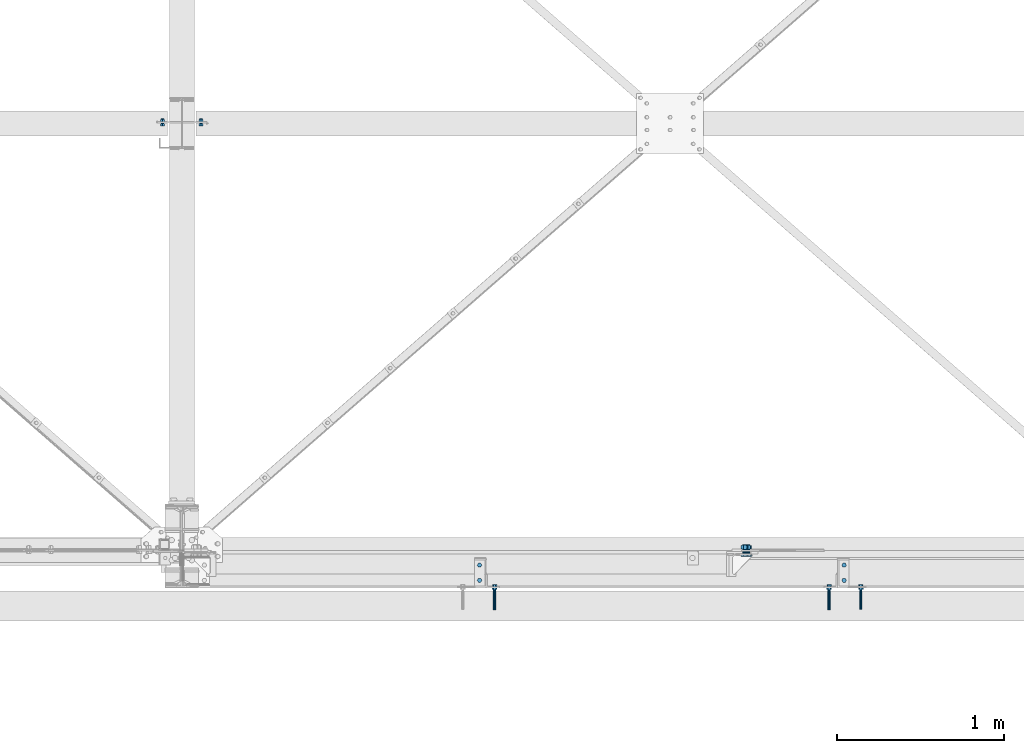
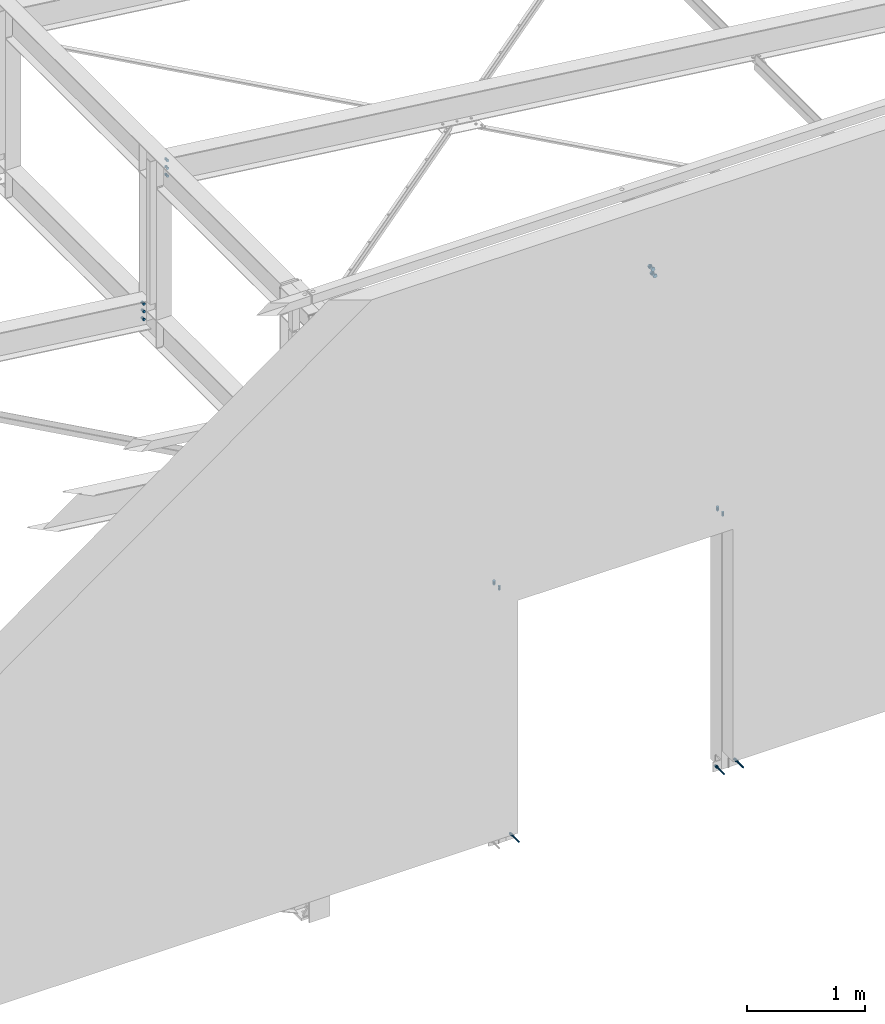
# One storey, part 126 of 3134: 8 mechanical fasteners, 6 elements without a shape of their own.
"""IFC2X3 building model written with IfcOpenShell, lengths in millimetres."""

import ifcopenshell
import ifcopenshell.guid

model = None  # the IFC model being written
_history = None  # IfcOwnerHistory: only IFC2X3 demands one
_inside = {}  # id of a spatial element -> (the spatial element, [elements in it])
_under = {}  # id of a project, library or spatial element -> (it, [spatial elements below it])
_declared = {}  # id of a project -> (the project, [libraries it declares])
_typed = {}  # id of a type object -> (the type object, [elements of that type])
_made_of = {}  # id of a material, layer set ... -> (it, [elements and type objects made of it])


def new_model(schema):
    """Start an empty IFC model of exactly this schema.

    Asked for "IFC4X3", IfcOpenShell would pick the latest addendum, in which some entities
    have other attributes; the version numbers below select the first issue.
    IFC2X3 requires an IfcOwnerHistory on every rooted entity: one is made here for all.
    """
    global model, _history
    if schema == "IFC4X3":
        model = ifcopenshell.file(schema_version=(4, 3, 0, 0))
    else:
        model = ifcopenshell.file(schema=schema)
    _inside.clear()
    _under.clear()
    _declared.clear()
    _typed.clear()
    _made_of.clear()
    _history = None
    if model.schema == "IFC2X3":
        org = make("IfcOrganization", Name="unknown")
        user = make(
            "IfcPersonAndOrganization",
            ThePerson=make("IfcPerson", FamilyName="unknown"),
            TheOrganization=org,
        )
        app = make(
            "IfcApplication",
            ApplicationDeveloper=org,
            Version="unknown",
            ApplicationFullName="unknown",
            ApplicationIdentifier="unknown",
        )
        _history = make(
            "IfcOwnerHistory",
            OwningUser=user,
            OwningApplication=app,
            ChangeAction="ADDED",
            CreationDate=0,
        )
    return model


def make(cls, **values):
    """One entity of the class cls with the attributes given. An attribute that is None is left unset."""
    return model.create_entity(
        cls, **{name: value for name, value in values.items() if value is not None}
    )


def rooted(cls, **values):
    """An entity with a GlobalId (a new one), such as an element, a storey or a relation."""
    return make(cls, GlobalId=ifcopenshell.guid.new(), OwnerHistory=_history, **values)


def si_unit(unit_type, name, prefix=None):
    """IfcSIUnit, for example si_unit("LENGTHUNIT", "METRE", prefix="MILLI")."""
    return make("IfcSIUnit", UnitType=unit_type, Prefix=prefix, Name=name)


def assignment(units):
    """IfcUnitAssignment: the units of a project."""
    return None if units is None else make("IfcUnitAssignment", Units=units)


def point(xyz):
    """IfcCartesianPoint."""
    return None if xyz is None else make("IfcCartesianPoint", Coordinates=xyz)


def direction(xyz):
    """IfcDirection."""
    return None if xyz is None else make("IfcDirection", DirectionRatios=xyz)


def frame(location, z_axis=None, x_axis=None):
    """IfcAxis2Placement3D, a coordinate frame: its origin and axes. An axis left out is left unset."""
    return make(
        "IfcAxis2Placement3D",
        Location=point(location),
        Axis=direction(z_axis),
        RefDirection=direction(x_axis),
    )


def origin_with_axes():
    """The frame at (0, 0, 0) with the z axis (0, 0, 1) and the x axis (1, 0, 0) written out."""
    return frame((0.0, 0.0, 0.0), z_axis=(0.0, 0.0, 1.0), x_axis=(1.0, 0.0, 0.0))


def place(relative_to, where):
    """IfcLocalPlacement: puts the frame where relative to a parent placement (None: the world)."""
    return make(
        "IfcLocalPlacement", PlacementRelTo=relative_to, RelativePlacement=where
    )


def context(
    kind, dimensions, precision=None, world=None, true_north=None, identifier=None
):
    """IfcGeometricRepresentationContext, for example the 3D "Model" context."""
    return make(
        "IfcGeometricRepresentationContext",
        ContextIdentifier=identifier,
        ContextType=kind,
        CoordinateSpaceDimension=dimensions,
        Precision=precision,
        WorldCoordinateSystem=world,
        TrueNorth=true_north,
    )


def subcontext(parent, identifier, kind, view, scale=None):
    """IfcGeometricRepresentationSubContext, for example "Body" below "Model"."""
    return make(
        "IfcGeometricRepresentationSubContext",
        ContextIdentifier=identifier,
        ContextType=kind,
        ParentContext=parent,
        TargetScale=scale,
        TargetView=view,
    )


def project(units=None, contexts=None):
    """IfcProject with its units and contexts."""
    return rooted(
        "IfcProject",
        Name="project",
        RepresentationContexts=contexts,
        UnitsInContext=assignment(units),
    )


def spatial(cls, under=None, at=None, **own):
    """A site, building, storey or space (cls), placed at a placement, below another one or the project."""
    s = rooted(cls, ObjectPlacement=at, **own)
    if under is not None:
        _under.setdefault(under.id(), (under, []))[1].append(s)
    return s


def faces_of(points, faces, orient=None, outer=None):
    """IfcFace entities. A face is a list of loops; a loop is a list of indices into points, from 0.

    orient and outer hold one flag for each loop. By default every Orientation is true, the
    first loop of a face is its IfcFaceOuterBound and the others are IfcFaceBound.
    """
    made = []
    for i, loops in enumerate(faces):
        bounds = []
        for j, loop in enumerate(loops):
            is_outer = j == 0 if outer is None else outer[i][j]
            bounds.append(
                make(
                    "IfcFaceOuterBound" if is_outer else "IfcFaceBound",
                    Bound=make("IfcPolyLoop", Polygon=[points[k] for k in loop]),
                    Orientation=True if orient is None else orient[i][j],
                )
            )
        made.append(make("IfcFace", Bounds=bounds))
    return made


def faceted_brep(points, faces, orient=None, outer=None, voids=None):
    """IfcFacetedBrep: a solid bounded by flat faces; with voids (closed shells), ...WithVoids."""
    shared = [point(p) for p in points]
    hull = make("IfcClosedShell", CfsFaces=faces_of(shared, faces, orient, outer))
    if voids is None:
        return make("IfcFacetedBrep", Outer=hull)
    return make(
        "IfcFacetedBrepWithVoids",
        Outer=hull,
        Voids=[
            make(cls, CfsFaces=faces_of(shared, fs, o, b)) for cls, fs, o, b in voids
        ],
    )


def shape(context_of_items, identifier, shape_type, items):
    """IfcShapeRepresentation: the items that make up one representation, for example the "Body"."""
    return make(
        "IfcShapeRepresentation",
        ContextOfItems=context_of_items,
        RepresentationIdentifier=identifier,
        RepresentationType=shape_type,
        Items=items,
    )


def source(mapping_origin, context_of_items, identifier, shape_type, items):
    """IfcRepresentationMap: a shape defined once, which mapped items show again and again."""
    return make(
        "IfcRepresentationMap",
        MappingOrigin=mapping_origin,
        MappedRepresentation=shape(context_of_items, identifier, shape_type, items),
    )


def transform(
    local_origin,
    x_axis=None,
    y_axis=None,
    z_axis=None,
    scale=None,
    scale2=None,
    scale3=None,
    uniform=True,
):
    """IfcCartesianTransformationOperator3D, or its non-uniform kind. x_axis, y_axis, z_axis: its Axis1, 2, 3."""
    if uniform:
        return make(
            "IfcCartesianTransformationOperator3D",
            Axis1=direction(x_axis),
            Axis2=direction(y_axis),
            LocalOrigin=point(local_origin),
            Scale=scale,
            Axis3=direction(z_axis),
        )
    return make(
        "IfcCartesianTransformationOperator3DnonUniform",
        Axis1=direction(x_axis),
        Axis2=direction(y_axis),
        LocalOrigin=point(local_origin),
        Scale=scale,
        Axis3=direction(z_axis),
        Scale2=scale2,
        Scale3=scale3,
    )


def mapped(mapping_source, mapping_target):
    """IfcMappedItem: shows the shape of a source again, moved by a transform."""
    return make(
        "IfcMappedItem", MappingSource=mapping_source, MappingTarget=mapping_target
    )


def material(Name=None, Category=None):
    """IfcMaterial."""
    return make("IfcMaterial", Name=Name, Category=Category)


def made_of(thing, what):
    """Note that an element or type object is made of a material, layer set ...; save() writes the relation."""
    if what is not None:
        _made_of.setdefault(what.id(), (what, []))[1].append(thing)
    return thing


def type_object(cls, material=None, **own):
    """A type object (cls), such as IfcWallType, which elements share."""
    return made_of(rooted(cls, **own), material)


def element(
    cls,
    number,
    at=None,
    inside=None,
    cuts=None,
    type_object=None,
    material=None,
    context=None,
    identifier="Body",
    shape_type=None,
    held_by="IfcProductDefinitionShape",
    body=None,
    shapes=None,
    **own,
):
    """One element of the class cls, such as IfcWall. Its Tag is "e" and its number.

    at: its placement. inside: the storey or other place that contains it. cuts: it is an
    opening in that element (IfcRelVoidsElement). A single representation is given by context,
    identifier, shape_type and body (its items); several are given by shapes. held_by: the class
    of the entity that holds the representations. save() writes the other relations.
    """
    e = rooted(cls, Tag="e%d" % number, ObjectPlacement=at, **own)
    if body is not None:
        shapes = [shape(context, identifier, shape_type, body)]
    if shapes is not None:
        e.Representation = make(held_by, Representations=shapes)
    if inside is not None:
        _inside.setdefault(inside.id(), (inside, []))[1].append(e)
    if cuts is not None:
        rooted(
            "IfcRelVoidsElement", RelatingBuildingElement=cuts, RelatedOpeningElement=e
        )
    if type_object is not None:
        _typed.setdefault(type_object.id(), (type_object, []))[1].append(e)
    return made_of(e, material)


def aggregate(whole, parts):
    """IfcRelAggregates: a whole, such as a stair, and the parts it consists of."""
    return rooted("IfcRelAggregates", RelatingObject=whole, RelatedObjects=parts)


def save(model, path):
    """Write the relations noted so far, then the file.

    IfcRelAggregates (storeys below a building ...), IfcRelContainedInSpatialStructure (elements
    in a storey), IfcRelDefinesByType, IfcRelAssociatesMaterial and IfcRelDeclares: one each for
    every whole, place, type object, material and project.
    """
    for whole, parts in _under.values():
        aggregate(whole, parts)
    for where, things in _inside.values():
        rooted(
            "IfcRelContainedInSpatialStructure",
            RelatedElements=things,
            RelatingStructure=where,
        )
    for kind, things in _typed.values():
        rooted("IfcRelDefinesByType", RelatedObjects=things, RelatingType=kind)
    for what, things in _made_of.values():
        rooted("IfcRelAssociatesMaterial", RelatedObjects=things, RelatingMaterial=what)
    for by, libraries in _declared.values():
        rooted("IfcRelDeclares", RelatingContext=by, RelatedDefinitions=libraries)
    model.write(path)


model = new_model("IFC2X3")

# Units and contexts
model_context = context("Model", 3, precision=1e-05, world=origin_with_axes())
body_context = subcontext(model_context, "Body", "Model", "MODEL_VIEW")
ifc_project = project(units=[si_unit("LENGTHUNIT", "METRE", prefix="MILLI"), si_unit("AREAUNIT", "SQUARE_METRE"), si_unit("VOLUMEUNIT", "CUBIC_METRE"), si_unit("MASSUNIT", "GRAM", prefix="KILO"), si_unit("TIMEUNIT", "SECOND"), si_unit("PLANEANGLEUNIT", "RADIAN"), si_unit("SOLIDANGLEUNIT", "STERADIAN"), si_unit("THERMODYNAMICTEMPERATUREUNIT", "DEGREE_CELSIUS"), si_unit("LUMINOUSINTENSITYUNIT", "LUMEN")], contexts=[model_context])

# Site, building, storey
site_placement = place(None, origin_with_axes())
site = spatial("IfcSite", under=ifc_project, at=site_placement, CompositionType="ELEMENT")
building_placement = place(site_placement, origin_with_axes())
building = spatial("IfcBuilding", under=site, at=building_placement, Name="Undefined", CompositionType="ELEMENT")
storey_placement = place(building_placement, origin_with_axes())
storey = spatial("IfcBuildingStorey", under=building, at=storey_placement, Name="Undefined", CompositionType="ELEMENT", Elevation=0.0)

# Assembly, mechanical fasteners
assembly_1_placement = place(storey_placement, origin_with_axes())
assembly_1 = element("IfcElementAssembly", 1, at=assembly_1_placement, inside=storey, Name="UPN180", AssemblyPlace="NOTDEFINED", PredefinedType="RIGID_FRAME")
ifc_material_1 = material(Name="HILTI-HSA")
mechanical_fastener_type = type_object("IfcMechanicalFastenerType", Name="Bolt assembly")
shared_shape_1 = source(origin_with_axes(), body_context, "Body", "Brep", [
    faceted_brep([(13.856406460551, -20.56, 0.0), (6.92820323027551, -20.56, 12.0), (-6.92820323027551, -20.56, 12.0), (-13.856406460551, -20.56, 1.69692038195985e-15), (-6.92820323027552, -20.56, -12.0), (6.9282032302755, -20.56, -12.0), (6.9282032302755, -10.0, -12.0), (-6.92820323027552, -10.0, -12.0), (-13.856406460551, -10.0, 1.69692038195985e-15), (-6.92820323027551, -10.0, 12.0), (6.92820323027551, -10.0, 12.0), (13.856406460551, -10.0, 0.0), (8.0, -10.0, 0.0), (6.92820323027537, -10.0, 4.00000000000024), (3.99999999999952, -10.0, 6.92820323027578), (-8.29068785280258e-13, -10.0, 8.0), (-4.00000000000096, -10.0, 6.92820323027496), (-6.9282032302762, -10.0, 3.99999999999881), (-8.0, -10.0, -1.65813757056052e-12), (-6.92820323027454, -10.0, -4.00000000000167), (-3.99999999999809, -10.0, -6.92820323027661), (2.47832457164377e-12, -10.0, -8.0), (4.00000000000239, -10.0, -6.92820323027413), (6.92820323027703, -10.0, -3.99999999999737), (6.92820323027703, 130.0, -3.99999999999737), (4.00000000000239, 130.0, -6.92820323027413), (2.47832457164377e-12, 130.0, -8.0), (-3.99999999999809, 130.0, -6.92820323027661), (-6.92820323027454, 130.0, -4.00000000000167), (-8.0, 130.0, -1.65813757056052e-12), (-6.9282032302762, 130.0, 3.99999999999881), (-4.00000000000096, 130.0, 6.92820323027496), (-8.29068785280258e-13, 130.0, 8.0), (3.99999999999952, 130.0, 6.92820323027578), (6.92820323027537, 130.0, 4.00000000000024), (8.0, 130.0, 0.0), (15.3344231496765, 7.105427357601e-15, 0.0), (7.66721157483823, 7.105427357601e-15, 13.28), (-7.66721157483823, 7.105427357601e-15, 13.28), (-15.3344231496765, 7.105427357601e-15, 1.87792522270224e-15), (-7.66721157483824, 7.105427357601e-15, -13.28), (7.66721157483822, 7.105427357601e-15, -13.28), (7.66721157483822, 10.56, -13.28), (-7.66721157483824, 10.56, -13.28), (-15.3344231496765, 10.56, 1.87792522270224e-15), (-7.66721157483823, 10.56, 13.28), (7.66721157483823, 10.56, 13.28), (15.3344231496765, 10.56, 0.0)], [[[0, 1, 2, 3, 4, 5]], [[6, 7, 8, 9, 10, 11]], [[0, 11, 10, 1]], [[1, 10, 9, 2]], [[2, 9, 8, 3]], [[3, 8, 7, 4]], [[4, 7, 6, 5]], [[5, 6, 11, 0]], [[12, 13, 14, 15, 16, 17, 18, 19, 20, 21, 22, 23]], [[24, 25, 26, 27, 28, 29, 30, 31, 32, 33, 34, 35]], [[12, 35, 34, 13]], [[13, 34, 33, 14]], [[14, 33, 32, 15]], [[15, 32, 31, 16]], [[16, 31, 30, 17]], [[17, 30, 29, 18]], [[18, 29, 28, 19]], [[19, 28, 27, 20]], [[20, 27, 26, 21]], [[21, 26, 25, 22]], [[22, 25, 24, 23]], [[23, 24, 35, 12]], [[36, 37, 38, 39, 40, 41]], [[42, 43, 44, 45, 46, 47]], [[36, 47, 46, 37]], [[37, 46, 45, 38]], [[38, 45, 44, 39]], [[39, 44, 43, 40]], [[40, 43, 42, 41]], [[41, 42, 47, 36]]]),
    faceted_brep([(9.0, -10.0, 0.0), (7.79422863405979, -10.0, 4.50000000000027), (4.49999999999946, -10.0, 7.79422863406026), (-9.3270238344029e-13, -10.0, 9.0), (-4.50000000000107, -10.0, 7.79422863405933), (-7.79422863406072, -10.0, 4.49999999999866), (-9.0, -10.0, -1.86540476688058e-12), (-7.79422863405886, -10.0, -4.50000000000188), (-4.49999999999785, -10.0, -7.79422863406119), (2.78811514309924e-12, -10.0, -9.0), (4.50000000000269, -10.0, -7.7942286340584), (7.79422863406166, -10.0, -4.49999999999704), (7.79422863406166, 0.100000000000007, -4.49999999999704), (4.50000000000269, 0.100000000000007, -7.7942286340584), (2.78811514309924e-12, 0.100000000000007, -9.0), (-4.49999999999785, 0.100000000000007, -7.79422863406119), (-7.79422863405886, 0.100000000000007, -4.50000000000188), (-9.0, 0.100000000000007, -1.86540476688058e-12), (-7.79422863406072, 0.100000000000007, 4.49999999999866), (-4.50000000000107, 0.100000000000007, 7.79422863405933), (-9.3270238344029e-13, 0.100000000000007, 9.0), (4.49999999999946, 0.100000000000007, 7.79422863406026), (7.79422863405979, 0.100000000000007, 4.50000000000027), (9.0, 0.100000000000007, 0.0)], [[[0, 1, 2, 3, 4, 5, 6, 7, 8, 9, 10, 11]], [[12, 13, 14, 15, 16, 17, 18, 19, 20, 21, 22, 23]], [[0, 23, 22, 1]], [[1, 22, 21, 2]], [[2, 21, 20, 3]], [[3, 20, 19, 4]], [[4, 19, 18, 5]], [[5, 18, 17, 6]], [[6, 17, 16, 7]], [[7, 16, 15, 8]], [[8, 15, 14, 9]], [[9, 14, 13, 10]], [[10, 13, 12, 11]], [[11, 12, 23, 0]]]),
])
mechanical_fastener_1_placement = place(assembly_1_placement, frame((59935.0, -225.0, -150.0), z_axis=(0.0, 0.0, 1.0), x_axis=(-1.0, 0.0, 0.0)))
mechanical_fastener_1 = element("IfcMechanicalFastener", 2, at=mechanical_fastener_1_placement, type_object=mechanical_fastener_type, material=ifc_material_1, Name="Bolt assembly", NominalDiameter=16.0, NominalLength=140.0, context=body_context, shape_type="MappedRepresentation", body=[
    mapped(shared_shape_1, transform((0.0, 0.0, 0.0))),
])
shared_shape_2 = source(origin_with_axes(), body_context, "Body", "Brep", [
    faceted_brep([(13.856406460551, -18.56, 0.0), (6.92820323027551, -18.56, 12.0), (-6.92820323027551, -18.56, 12.0), (-13.856406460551, -18.56, 1.69692038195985e-15), (-6.92820323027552, -18.56, -12.0), (6.9282032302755, -18.56, -12.0), (6.9282032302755, -7.99999766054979, -12.0), (-6.92820323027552, -7.99999766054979, -12.0), (-13.856406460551, -7.99999766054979, 1.69692038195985e-15), (-6.92820323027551, -7.99999766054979, 12.0), (6.92820323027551, -7.99999766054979, 12.0), (13.856406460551, -7.99999766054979, 0.0), (8.0, -8.0, 0.0), (6.92820323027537, -8.0, 4.00000000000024), (3.99999999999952, -8.0, 6.92820323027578), (-8.29068785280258e-13, -8.0, 8.0), (-4.00000000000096, -8.0, 6.92820323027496), (-6.9282032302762, -8.0, 3.99999999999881), (-8.0, -8.0, -1.65813757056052e-12), (-6.92820323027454, -8.0, -4.00000000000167), (-3.99999999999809, -8.0, -6.92820323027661), (2.47832457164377e-12, -8.0, -8.0), (4.00000000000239, -8.0, -6.92820323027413), (6.92820323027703, -8.0, -3.99999999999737), (6.92820323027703, 132.0, -3.99999999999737), (4.00000000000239, 132.0, -6.92820323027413), (2.47832457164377e-12, 132.0, -8.0), (-3.99999999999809, 132.0, -6.92820323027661), (-6.92820323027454, 132.0, -4.00000000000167), (-8.0, 132.0, -1.65813757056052e-12), (-6.9282032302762, 132.0, 3.99999999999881), (-4.00000000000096, 132.0, 6.92820323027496), (-8.29068785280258e-13, 132.0, 8.0), (3.99999999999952, 132.0, 6.92820323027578), (6.92820323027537, 132.0, 4.00000000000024), (8.0, 132.0, 0.0), (15.3344231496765, 7.105427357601e-15, 0.0), (7.66721157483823, 7.105427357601e-15, 13.28), (-7.66721157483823, 7.105427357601e-15, 13.28), (-15.3344231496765, 7.105427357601e-15, 1.87792522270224e-15), (-7.66721157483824, 7.105427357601e-15, -13.28), (7.66721157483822, 7.105427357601e-15, -13.28), (7.66721157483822, 10.56, -13.28), (-7.66721157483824, 10.56, -13.28), (-15.3344231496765, 10.56, 1.87792522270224e-15), (-7.66721157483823, 10.56, 13.28), (7.66721157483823, 10.56, 13.28), (15.3344231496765, 10.56, 0.0)], [[[0, 1, 2, 3, 4, 5]], [[6, 7, 8, 9, 10, 11]], [[0, 11, 10, 1]], [[1, 10, 9, 2]], [[2, 9, 8, 3]], [[3, 8, 7, 4]], [[4, 7, 6, 5]], [[5, 6, 11, 0]], [[12, 13, 14, 15, 16, 17, 18, 19, 20, 21, 22, 23]], [[24, 25, 26, 27, 28, 29, 30, 31, 32, 33, 34, 35]], [[12, 35, 34, 13]], [[13, 34, 33, 14]], [[14, 33, 32, 15]], [[15, 32, 31, 16]], [[16, 31, 30, 17]], [[17, 30, 29, 18]], [[18, 29, 28, 19]], [[19, 28, 27, 20]], [[20, 27, 26, 21]], [[21, 26, 25, 22]], [[22, 25, 24, 23]], [[23, 24, 35, 12]], [[36, 37, 38, 39, 40, 41]], [[42, 43, 44, 45, 46, 47]], [[36, 47, 46, 37]], [[37, 46, 45, 38]], [[38, 45, 44, 39]], [[39, 44, 43, 40]], [[40, 43, 42, 41]], [[41, 42, 47, 36]]]),
    faceted_brep([(9.0, -8.0, 0.0), (7.79422863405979, -8.0, 4.50000000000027), (4.49999999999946, -8.0, 7.79422863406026), (-9.3270238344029e-13, -8.0, 9.0), (-4.50000000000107, -8.0, 7.79422863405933), (-7.79422863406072, -8.0, 4.49999999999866), (-9.0, -8.0, -1.86540476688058e-12), (-7.79422863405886, -8.0, -4.50000000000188), (-4.49999999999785, -8.0, -7.79422863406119), (2.78811514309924e-12, -8.0, -9.0), (4.50000000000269, -8.0, -7.7942286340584), (7.79422863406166, -8.0, -4.49999999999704), (7.79422863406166, 0.100000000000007, -4.49999999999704), (4.50000000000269, 0.100000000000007, -7.7942286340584), (2.78811514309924e-12, 0.100000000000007, -9.0), (-4.49999999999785, 0.100000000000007, -7.79422863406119), (-7.79422863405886, 0.100000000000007, -4.50000000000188), (-9.0, 0.100000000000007, -1.86540476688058e-12), (-7.79422863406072, 0.100000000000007, 4.49999999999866), (-4.50000000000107, 0.100000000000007, 7.79422863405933), (-9.3270238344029e-13, 0.100000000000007, 9.0), (4.49999999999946, 0.100000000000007, 7.79422863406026), (7.79422863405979, 0.100000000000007, 4.50000000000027), (9.0, 0.100000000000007, 0.0)], [[[0, 1, 2, 3, 4, 5, 6, 7, 8, 9, 10, 11]], [[12, 13, 14, 15, 16, 17, 18, 19, 20, 21, 22, 23]], [[0, 23, 22, 1]], [[1, 22, 21, 2]], [[2, 21, 20, 3]], [[3, 20, 19, 4]], [[4, 19, 18, 5]], [[5, 18, 17, 6]], [[6, 17, 16, 7]], [[7, 16, 15, 8]], [[8, 15, 14, 9]], [[9, 14, 13, 10]], [[10, 13, 12, 11]], [[11, 12, 23, 0]]]),
])
mechanical_fastener_2_placement = place(assembly_1_placement, frame((59745.0, -225.0, -150.0), z_axis=(0.0, 0.0, -1.0), x_axis=(1.0, 0.0, 0.0)))
mechanical_fastener_2 = element("IfcMechanicalFastener", 3, at=mechanical_fastener_2_placement, type_object=mechanical_fastener_type, material=ifc_material_1, Name="Bolt assembly", NominalDiameter=16.0, NominalLength=140.0, context=body_context, shape_type="MappedRepresentation", body=[
    mapped(shared_shape_2, transform((0.0, 0.0, 0.0))),
])
aggregate(assembly_1, [mechanical_fastener_2, mechanical_fastener_1])

# Assembly, mechanical fastener
assembly_2_placement = place(storey_placement, origin_with_axes())
assembly_2 = element("IfcElementAssembly", 4, at=assembly_2_placement, inside=storey, Name="UPN180", AssemblyPlace="NOTDEFINED", PredefinedType="RIGID_FRAME")
mechanical_fastener_3_placement = place(assembly_2_placement, frame((57745.0, -225.0, -150.0), z_axis=(0.0, 0.0, 1.0), x_axis=(-1.0, 0.0, 0.0)))
mechanical_fastener_3 = element("IfcMechanicalFastener", 5, at=mechanical_fastener_3_placement, type_object=mechanical_fastener_type, material=ifc_material_1, Name="Bolt assembly", NominalDiameter=16.0, NominalLength=140.0, context=body_context, shape_type="MappedRepresentation", body=[
    mapped(shared_shape_2, transform((0.0, 0.0, 0.0))),
])
aggregate(assembly_2, [mechanical_fastener_3])

assembly_3_placement = place(storey_placement, origin_with_axes())
assembly_3 = element("IfcElementAssembly", 6, at=assembly_3_placement, inside=storey, Name="300", AssemblyPlace="NOTDEFINED", PredefinedType="RIGID_FRAME")
ifc_material_2 = material(Name="8.8")
shared_shape_3 = source(origin_with_axes(), body_context, "Body", "Brep", [
    faceted_brep([(13.856406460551, -13.0499999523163, 0.0), (6.92820323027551, -13.0499999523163, 12.0), (-6.92820323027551, -13.0499999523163, 12.0), (-13.856406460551, -13.0499999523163, 1.69692038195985e-15), (-6.92820323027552, -13.0499999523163, -12.0), (6.9282032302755, -13.0499999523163, -12.0), (6.9282032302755, -3.04999995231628, -12.0), (-6.92820323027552, -3.04999995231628, -12.0), (-13.856406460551, -3.04999995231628, 1.69692038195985e-15), (-6.92820323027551, -3.04999995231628, 12.0), (6.92820323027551, -3.04999995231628, 12.0), (13.856406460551, -3.04999995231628, 0.0), (8.0, -3.04999995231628, 0.0), (6.92820323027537, -3.04999995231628, 4.00000000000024), (3.99999999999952, -3.04999995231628, 6.92820323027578), (-8.29068785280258e-13, -3.04999995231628, 8.0), (-4.00000000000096, -3.04999995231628, 6.92820323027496), (-6.9282032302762, -3.04999995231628, 3.99999999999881), (-8.0, -3.04999995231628, -1.65813757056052e-12), (-6.92820323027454, -3.04999995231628, -4.00000000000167), (-3.99999999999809, -3.04999995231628, -6.92820323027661), (2.47832457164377e-12, -3.04999995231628, -8.0), (4.00000000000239, -3.04999995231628, -6.92820323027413), (6.92820323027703, -3.04999995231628, -3.99999999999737), (6.92820323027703, 31.9500000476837, -3.99999999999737), (4.00000000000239, 31.9500000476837, -6.92820323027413), (2.47832457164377e-12, 31.9500000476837, -8.0), (-3.99999999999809, 31.9500000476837, -6.92820323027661), (-6.92820323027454, 31.9500000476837, -4.00000000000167), (-8.0, 31.9500000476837, -1.65813757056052e-12), (-6.9282032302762, 31.9500000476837, 3.99999999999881), (-4.00000000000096, 31.9500000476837, 6.92820323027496), (-8.29068785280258e-13, 31.9500000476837, 8.0), (3.99999999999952, 31.9500000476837, 6.92820323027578), (6.92820323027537, 31.9500000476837, 4.00000000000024), (8.0, 31.9500000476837, 0.0), (13.856406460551, 13.0500000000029, 0.0), (6.92820323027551, 13.0500000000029, 12.0), (-6.92820323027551, 13.0500000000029, 12.0), (-13.856406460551, 13.0500000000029, 1.69692038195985e-15), (-6.92820323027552, 13.0500000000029, -12.0), (6.9282032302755, 13.0500000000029, -12.0), (6.9282032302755, 26.0500000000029, -12.0), (-6.92820323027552, 26.0500000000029, -12.0), (-13.856406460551, 26.0500000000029, 1.69692038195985e-15), (-6.92820323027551, 26.0500000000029, 12.0), (6.92820323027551, 26.0500000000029, 12.0), (13.856406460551, 26.0500000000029, 0.0)], [[[0, 1, 2, 3, 4, 5]], [[6, 7, 8, 9, 10, 11]], [[0, 11, 10, 1]], [[1, 10, 9, 2]], [[2, 9, 8, 3]], [[3, 8, 7, 4]], [[4, 7, 6, 5]], [[5, 6, 11, 0]], [[12, 13, 14, 15, 16, 17, 18, 19, 20, 21, 22, 23]], [[24, 25, 26, 27, 28, 29, 30, 31, 32, 33, 34, 35]], [[12, 35, 34, 13]], [[13, 34, 33, 14]], [[14, 33, 32, 15]], [[15, 32, 31, 16]], [[16, 31, 30, 17]], [[17, 30, 29, 18]], [[18, 29, 28, 19]], [[19, 28, 27, 20]], [[20, 27, 26, 21]], [[21, 26, 25, 22]], [[22, 25, 24, 23]], [[23, 24, 35, 12]], [[36, 37, 38, 39, 40, 41]], [[42, 43, 44, 45, 46, 47]], [[36, 47, 46, 37]], [[37, 46, 45, 38]], [[38, 45, 44, 39]], [[39, 44, 43, 40]], [[40, 43, 42, 41]], [[41, 42, 47, 36]]]),
    faceted_brep([(9.0, 2.95000000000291, 0.0), (7.79422863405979, 2.95000000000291, 4.50000000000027), (4.49999999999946, 2.95000000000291, 7.79422863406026), (-9.3270238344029e-13, 2.95000000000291, 9.0), (-4.50000000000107, 2.95000000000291, 7.79422863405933), (-7.79422863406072, 2.95000000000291, 4.49999999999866), (-9.0, 2.95000000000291, -1.86540476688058e-12), (-7.79422863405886, 2.95000000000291, -4.50000000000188), (-4.49999999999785, 2.95000000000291, -7.79422863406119), (2.78811514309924e-12, 2.95000000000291, -9.0), (4.50000000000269, 2.95000000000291, -7.7942286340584), (7.79422863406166, 2.95000000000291, -4.49999999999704), (7.79422863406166, 13.0500000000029, -4.49999999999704), (4.50000000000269, 13.0500000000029, -7.7942286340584), (2.78811514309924e-12, 13.0500000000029, -9.0), (-4.49999999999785, 13.0500000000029, -7.79422863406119), (-7.79422863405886, 13.0500000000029, -4.50000000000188), (-9.0, 13.0500000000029, -1.86540476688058e-12), (-7.79422863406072, 13.0500000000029, 4.49999999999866), (-4.50000000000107, 13.0500000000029, 7.79422863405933), (-9.3270238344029e-13, 13.0500000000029, 9.0), (4.49999999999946, 13.0500000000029, 7.79422863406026), (7.79422863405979, 13.0500000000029, 4.50000000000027), (9.0, 13.0500000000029, 0.0), (9.0, -2.94999995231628, 0.0), (7.79422863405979, -2.94999995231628, 4.50000000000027), (4.49999999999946, -2.94999995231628, 7.79422863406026), (-9.3270238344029e-13, -2.94999995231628, 9.0), (-4.50000000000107, -2.94999995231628, 7.79422863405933), (-7.79422863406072, -2.94999995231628, 4.49999999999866), (-9.0, -2.94999995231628, -1.86540476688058e-12), (-7.79422863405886, -2.94999995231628, -4.50000000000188), (-4.49999999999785, -2.94999995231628, -7.79422863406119), (2.78811514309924e-12, -2.94999995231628, -9.0), (4.50000000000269, -2.94999995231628, -7.7942286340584), (7.79422863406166, -2.94999995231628, -4.49999999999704), (7.79422863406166, 3.14999995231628, -4.49999999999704), (4.50000000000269, 3.14999995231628, -7.7942286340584), (2.78811514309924e-12, 3.14999995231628, -9.0), (-4.49999999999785, 3.14999995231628, -7.79422863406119), (-7.79422863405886, 3.14999995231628, -4.50000000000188), (-9.0, 3.14999995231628, -1.86540476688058e-12), (-7.79422863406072, 3.14999995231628, 4.49999999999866), (-4.50000000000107, 3.14999995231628, 7.79422863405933), (-9.3270238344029e-13, 3.14999995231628, 9.0), (4.49999999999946, 3.14999995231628, 7.79422863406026), (7.79422863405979, 3.14999995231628, 4.50000000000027), (9.0, 3.14999995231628, 0.0)], [[[0, 1, 2, 3, 4, 5, 6, 7, 8, 9, 10, 11]], [[12, 13, 14, 15, 16, 17, 18, 19, 20, 21, 22, 23]], [[0, 23, 22, 1]], [[1, 22, 21, 2]], [[2, 21, 20, 3]], [[3, 20, 19, 4]], [[4, 19, 18, 5]], [[5, 18, 17, 6]], [[6, 17, 16, 7]], [[7, 16, 15, 8]], [[8, 15, 14, 9]], [[9, 14, 13, 10]], [[10, 13, 12, 11]], [[11, 12, 23, 0]], [[24, 25, 26, 27, 28, 29, 30, 31, 32, 33, 34, 35]], [[36, 37, 38, 39, 40, 41, 42, 43, 44, 45, 46, 47]], [[24, 47, 46, 25]], [[25, 46, 45, 26]], [[26, 45, 44, 27]], [[27, 44, 43, 28]], [[28, 43, 42, 29]], [[29, 42, 41, 30]], [[30, 41, 40, 31]], [[31, 40, 39, 32]], [[32, 39, 38, 33]], [[33, 38, 37, 34]], [[34, 37, 36, 35]], [[35, 36, 47, 24]]]),
])
mechanical_fastener_4_placement = place(assembly_3_placement, frame((55760.0, 2550.0, 4337.44269270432), z_axis=(1.0, 0.0, 0.0), x_axis=(0.0, 0.0, -1.0)))
mechanical_fastener_4 = element("IfcMechanicalFastener", 7, at=mechanical_fastener_4_placement, type_object=mechanical_fastener_type, material=ifc_material_2, Name="Bolt assembly", NominalDiameter=16.0, NominalLength=35.0, context=body_context, shape_type="MappedRepresentation", body=[
    mapped(shared_shape_3, transform((0.0, 0.0, 0.0))),
    mapped(shared_shape_3, transform((80.0, 0.0, 0.0))),
    mapped(shared_shape_3, transform((160.0, 0.0, 0.0))),
])
aggregate(assembly_3, [mechanical_fastener_4])

assembly_4_placement = place(storey_placement, origin_with_axes())
assembly_4 = element("IfcElementAssembly", 8, at=assembly_4_placement, inside=storey, Name="300", AssemblyPlace="NOTDEFINED", PredefinedType="RIGID_FRAME")
mechanical_fastener_5_placement = place(assembly_4_placement, frame((55990.0, 2550.0, 5735.35014950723), z_axis=(1.0, 0.0, 0.0), x_axis=(0.0, 0.0, -1.0)))
mechanical_fastener_5 = element("IfcMechanicalFastener", 9, at=mechanical_fastener_5_placement, type_object=mechanical_fastener_type, material=ifc_material_2, Name="Bolt assembly", NominalDiameter=16.0, NominalLength=35.0, context=body_context, shape_type="MappedRepresentation", body=[
    mapped(shared_shape_3, transform((0.0, 0.0, 0.0))),
    mapped(shared_shape_3, transform((80.0, 0.0, 0.0))),
    mapped(shared_shape_3, transform((160.0, 0.0, 0.0))),
])
aggregate(assembly_4, [mechanical_fastener_5])

# Assembly, mechanical fasteners
assembly_5_placement = place(storey_placement, origin_with_axes())
assembly_5 = element("IfcElementAssembly", 10, at=assembly_5_placement, inside=storey, Name="UPN180", AssemblyPlace="NOTDEFINED", PredefinedType="RIGID_FRAME")
shared_shape_4 = source(origin_with_axes(), body_context, "Body", "Brep", [
    faceted_brep([(13.856406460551, -18.0, 0.0), (6.92820323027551, -18.0, 12.0), (-6.92820323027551, -18.0, 12.0), (-13.856406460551, -18.0, 1.69692038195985e-15), (-6.92820323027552, -18.0, -12.0), (6.9282032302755, -18.0, -12.0), (6.9282032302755, -7.99999766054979, -12.0), (-6.92820323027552, -7.99999766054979, -12.0), (-13.856406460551, -7.99999766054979, 1.69692038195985e-15), (-6.92820323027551, -7.99999766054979, 12.0), (6.92820323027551, -7.99999766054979, 12.0), (13.856406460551, -7.99999766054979, 0.0), (8.0, -8.0, 0.0), (6.92820323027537, -8.0, 4.00000000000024), (3.99999999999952, -8.0, 6.92820323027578), (-8.29068785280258e-13, -8.0, 8.0), (-4.00000000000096, -8.0, 6.92820323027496), (-6.9282032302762, -8.0, 3.99999999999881), (-8.0, -8.0, -1.65813757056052e-12), (-6.92820323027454, -8.0, -4.00000000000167), (-3.99999999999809, -8.0, -6.92820323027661), (2.47832457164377e-12, -8.0, -8.0), (4.00000000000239, -8.0, -6.92820323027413), (6.92820323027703, -8.0, -3.99999999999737), (6.92820323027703, 27.0, -3.99999999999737), (4.00000000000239, 27.0, -6.92820323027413), (2.47832457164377e-12, 27.0, -8.0), (-3.99999999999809, 27.0, -6.92820323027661), (-6.92820323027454, 27.0, -4.00000000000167), (-8.0, 27.0, -1.65813757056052e-12), (-6.9282032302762, 27.0, 3.99999999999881), (-4.00000000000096, 27.0, 6.92820323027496), (-8.29068785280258e-13, 27.0, 8.0), (3.99999999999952, 27.0, 6.92820323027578), (6.92820323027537, 27.0, 4.00000000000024), (8.0, 27.0, 0.0), (13.856406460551, 5.99999999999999, 0.0), (6.92820323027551, 5.99999999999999, 12.0), (-6.92820323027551, 5.99999999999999, 12.0), (-13.856406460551, 5.99999999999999, 1.69692038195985e-15), (-6.92820323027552, 5.99999999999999, -12.0), (6.9282032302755, 5.99999999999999, -12.0), (6.9282032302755, 19.0, -12.0), (-6.92820323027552, 19.0, -12.0), (-13.856406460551, 19.0, 1.69692038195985e-15), (-6.92820323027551, 19.0, 12.0), (6.92820323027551, 19.0, 12.0), (13.856406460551, 19.0, 0.0)], [[[0, 1, 2, 3, 4, 5]], [[6, 7, 8, 9, 10, 11]], [[0, 11, 10, 1]], [[1, 10, 9, 2]], [[2, 9, 8, 3]], [[3, 8, 7, 4]], [[4, 7, 6, 5]], [[5, 6, 11, 0]], [[12, 13, 14, 15, 16, 17, 18, 19, 20, 21, 22, 23]], [[24, 25, 26, 27, 28, 29, 30, 31, 32, 33, 34, 35]], [[12, 35, 34, 13]], [[13, 34, 33, 14]], [[14, 33, 32, 15]], [[15, 32, 31, 16]], [[16, 31, 30, 17]], [[17, 30, 29, 18]], [[18, 29, 28, 19]], [[19, 28, 27, 20]], [[20, 27, 26, 21]], [[21, 26, 25, 22]], [[22, 25, 24, 23]], [[23, 24, 35, 12]], [[36, 37, 38, 39, 40, 41]], [[42, 43, 44, 45, 46, 47]], [[36, 47, 46, 37]], [[37, 46, 45, 38]], [[38, 45, 44, 39]], [[39, 44, 43, 40]], [[40, 43, 42, 41]], [[41, 42, 47, 36]]]),
    faceted_brep([(9.0, -0.1, 0.0), (7.79422863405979, -0.1, 4.50000000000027), (4.49999999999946, -0.1, 7.79422863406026), (-9.3270238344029e-13, -0.1, 9.0), (-4.50000000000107, -0.1, 7.79422863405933), (-7.79422863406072, -0.1, 4.49999999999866), (-9.0, -0.1, -1.86540476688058e-12), (-7.79422863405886, -0.1, -4.50000000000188), (-4.49999999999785, -0.1, -7.79422863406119), (2.78811514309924e-12, -0.1, -9.0), (4.50000000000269, -0.1, -7.7942286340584), (7.79422863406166, -0.1, -4.49999999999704), (7.79422863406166, 5.99999999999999, -4.49999999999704), (4.50000000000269, 5.99999999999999, -7.7942286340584), (2.78811514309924e-12, 5.99999999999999, -9.0), (-4.49999999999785, 5.99999999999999, -7.79422863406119), (-7.79422863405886, 5.99999999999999, -4.50000000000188), (-9.0, 5.99999999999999, -1.86540476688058e-12), (-7.79422863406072, 5.99999999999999, 4.49999999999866), (-4.50000000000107, 5.99999999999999, 7.79422863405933), (-9.3270238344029e-13, 5.99999999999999, 9.0), (4.49999999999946, 5.99999999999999, 7.79422863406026), (7.79422863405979, 5.99999999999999, 4.50000000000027), (9.0, 5.99999999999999, 0.0), (9.0, -7.9, 0.0), (7.79422863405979, -7.9, 4.50000000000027), (4.49999999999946, -7.9, 7.79422863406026), (-9.3270238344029e-13, -7.9, 9.0), (-4.50000000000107, -7.9, 7.79422863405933), (-7.79422863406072, -7.9, 4.49999999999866), (-9.0, -7.9, -1.86540476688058e-12), (-7.79422863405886, -7.9, -4.50000000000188), (-4.49999999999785, -7.9, -7.79422863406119), (2.78811514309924e-12, -7.9, -9.0), (4.50000000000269, -7.9, -7.7942286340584), (7.79422863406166, -7.9, -4.49999999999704), (7.79422863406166, 0.100000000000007, -4.49999999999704), (4.50000000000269, 0.100000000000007, -7.7942286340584), (2.78811514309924e-12, 0.100000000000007, -9.0), (-4.49999999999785, 0.100000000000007, -7.79422863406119), (-7.79422863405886, 0.100000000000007, -4.50000000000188), (-9.0, 0.100000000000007, -1.86540476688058e-12), (-7.79422863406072, 0.100000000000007, 4.49999999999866), (-4.50000000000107, 0.100000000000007, 7.79422863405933), (-9.3270238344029e-13, 0.100000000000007, 9.0), (4.49999999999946, 0.100000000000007, 7.79422863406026), (7.79422863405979, 0.100000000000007, 4.50000000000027), (9.0, 0.100000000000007, 0.0)], [[[0, 1, 2, 3, 4, 5, 6, 7, 8, 9, 10, 11]], [[12, 13, 14, 15, 16, 17, 18, 19, 20, 21, 22, 23]], [[0, 23, 22, 1]], [[1, 22, 21, 2]], [[2, 21, 20, 3]], [[3, 20, 19, 4]], [[4, 19, 18, 5]], [[5, 18, 17, 6]], [[6, 17, 16, 7]], [[7, 16, 15, 8]], [[8, 15, 14, 9]], [[9, 14, 13, 10]], [[10, 13, 12, 11]], [[11, 12, 23, 0]], [[24, 25, 26, 27, 28, 29, 30, 31, 32, 33, 34, 35]], [[36, 37, 38, 39, 40, 41, 42, 43, 44, 45, 46, 47]], [[24, 47, 46, 25]], [[25, 46, 45, 26]], [[26, 45, 44, 27]], [[27, 44, 43, 28]], [[28, 43, 42, 29]], [[29, 42, 41, 30]], [[30, 41, 40, 31]], [[31, 40, 39, 32]], [[32, 39, 38, 33]], [[33, 38, 37, 34]], [[34, 37, 36, 35]], [[35, 36, 47, 24]]]),
])
mechanical_fastener_6_placement = place(assembly_5_placement, frame((59835.0, -135.0, 2400.0), z_axis=(0.0, -1.0, 0.0), x_axis=(-1.0, 0.0, 0.0)))
mechanical_fastener_6 = element("IfcMechanicalFastener", 11, at=mechanical_fastener_6_placement, type_object=mechanical_fastener_type, material=ifc_material_2, Name="Bolt assembly", NominalDiameter=16.0, NominalLength=35.0, context=body_context, shape_type="MappedRepresentation", body=[
    mapped(shared_shape_4, transform((0.0, 0.0, -45.0))),
    mapped(shared_shape_4, transform((0.0, 0.0, 45.0))),
])
mechanical_fastener_7_placement = place(assembly_5_placement, frame((57655.0, -135.0, 2400.0), z_axis=(0.0, 1.0, 0.0), x_axis=(1.0, 0.0, 0.0)))
mechanical_fastener_7 = element("IfcMechanicalFastener", 12, at=mechanical_fastener_7_placement, type_object=mechanical_fastener_type, material=ifc_material_2, Name="Bolt assembly", NominalDiameter=16.0, NominalLength=35.0, context=body_context, shape_type="MappedRepresentation", body=[
    mapped(shared_shape_4, transform((0.0, 0.0, -45.0))),
    mapped(shared_shape_4, transform((0.0, 0.0, 45.0))),
])
aggregate(assembly_5, [mechanical_fastener_6, mechanical_fastener_7])

# Assembly, mechanical fastener
assembly_6_placement = place(storey_placement, origin_with_axes())
assembly_6 = element("IfcElementAssembly", 13, at=assembly_6_placement, inside=storey, Name="300", AssemblyPlace="NOTDEFINED", PredefinedType="RIGID_FRAME")
shared_shape_5 = source(origin_with_axes(), body_context, "Body", "Brep", [
    faceted_brep([(20.7846096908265, -37.5, 0.0), (10.3923048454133, -37.5, 18.0), (-10.3923048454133, -37.5, 18.0), (-20.7846096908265, -37.5, 2.54538057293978e-15), (-10.3923048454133, -37.5, -18.0), (10.3923048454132, -37.5, -18.0), (10.3923048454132, -22.5, -18.0), (-10.3923048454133, -22.5, -18.0), (-20.7846096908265, -22.5, 2.54538057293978e-15), (-10.3923048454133, -22.5, 18.0), (10.3923048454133, -22.5, 18.0), (20.7846096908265, -22.5, 0.0), (12.0, -22.5, 0.0), (10.3923048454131, -22.5, 6.00000000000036), (5.99999999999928, -22.5, 10.3923048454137), (-1.24360317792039e-12, -22.5, 12.0), (-6.00000000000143, -22.5, 10.3923048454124), (-10.3923048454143, -22.5, 5.99999999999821), (-12.0, -22.5, -2.48720635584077e-12), (-10.3923048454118, -22.5, -6.00000000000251), (-5.99999999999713, -22.5, -10.3923048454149), (3.71748685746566e-12, -22.5, -12.0), (6.00000000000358, -22.5, -10.3923048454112), (10.3923048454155, -22.5, -5.99999999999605), (10.3923048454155, 32.5, -5.99999999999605), (6.00000000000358, 32.5, -10.3923048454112), (3.71748685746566e-12, 32.5, -12.0), (-5.99999999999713, 32.5, -10.3923048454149), (-10.3923048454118, 32.5, -6.00000000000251), (-12.0, 32.5, -2.48720635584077e-12), (-10.3923048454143, 32.5, 5.99999999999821), (-6.00000000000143, 32.5, 10.3923048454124), (-1.24360317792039e-12, 32.5, 12.0), (5.99999999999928, 32.5, 10.3923048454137), (10.3923048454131, 32.5, 6.00000000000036), (12.0, 32.5, 0.0), (20.7846096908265, 7.5, 0.0), (10.3923048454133, 7.5, 18.0), (-10.3923048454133, 7.5, 18.0), (-20.7846096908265, 7.5, 2.54538057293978e-15), (-10.3923048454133, 7.5, -18.0), (10.3923048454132, 7.5, -18.0), (10.3923048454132, 26.5, -18.0), (-10.3923048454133, 26.5, -18.0), (-20.7846096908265, 26.5, 2.54538057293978e-15), (-10.3923048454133, 26.5, 18.0), (10.3923048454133, 26.5, 18.0), (20.7846096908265, 26.5, 0.0)], [[[0, 1, 2, 3, 4, 5]], [[6, 7, 8, 9, 10, 11]], [[0, 11, 10, 1]], [[1, 10, 9, 2]], [[2, 9, 8, 3]], [[3, 8, 7, 4]], [[4, 7, 6, 5]], [[5, 6, 11, 0]], [[12, 13, 14, 15, 16, 17, 18, 19, 20, 21, 22, 23]], [[24, 25, 26, 27, 28, 29, 30, 31, 32, 33, 34, 35]], [[12, 35, 34, 13]], [[13, 34, 33, 14]], [[14, 33, 32, 15]], [[15, 32, 31, 16]], [[16, 31, 30, 17]], [[17, 30, 29, 18]], [[18, 29, 28, 19]], [[19, 28, 27, 20]], [[20, 27, 26, 21]], [[21, 26, 25, 22]], [[22, 25, 24, 23]], [[23, 24, 35, 12]], [[36, 37, 38, 39, 40, 41]], [[42, 43, 44, 45, 46, 47]], [[36, 47, 46, 37]], [[37, 46, 45, 38]], [[38, 45, 44, 39]], [[39, 44, 43, 40]], [[40, 43, 42, 41]], [[41, 42, 47, 36]]]),
    faceted_brep([(13.0, -22.4, 0.0), (11.2583302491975, -22.4, 6.50000000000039), (6.49999999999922, -22.4, 11.2583302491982), (-1.34723677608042e-12, -22.4, 13.0), (-6.50000000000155, -22.4, 11.2583302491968), (-11.2583302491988, -22.4, 6.49999999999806), (-13.0, -22.4, -2.69447355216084e-12), (-11.2583302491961, -22.4, -6.50000000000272), (-6.4999999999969, -22.4, -11.2583302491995), (4.02727742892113e-12, -22.4, -13.0), (6.50000000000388, -22.4, -11.2583302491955), (11.2583302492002, -22.4, -6.49999999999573), (11.2583302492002, -7.40000000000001, -6.49999999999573), (6.50000000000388, -7.40000000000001, -11.2583302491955), (4.02727742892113e-12, -7.40000000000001, -13.0), (-6.4999999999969, -7.40000000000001, -11.2583302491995), (-11.2583302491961, -7.40000000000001, -6.50000000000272), (-13.0, -7.40000000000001, -2.69447355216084e-12), (-11.2583302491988, -7.40000000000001, 6.49999999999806), (-6.50000000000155, -7.40000000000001, 11.2583302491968), (-1.34723677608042e-12, -7.40000000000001, 13.0), (6.49999999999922, -7.40000000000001, 11.2583302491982), (11.2583302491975, -7.40000000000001, 6.50000000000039), (13.0, -7.40000000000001, 0.0), (13.0, -7.6, 0.0), (11.2583302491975, -7.6, 6.50000000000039), (6.49999999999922, -7.6, 11.2583302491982), (-1.34723677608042e-12, -7.6, 13.0), (-6.50000000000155, -7.6, 11.2583302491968), (-11.2583302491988, -7.6, 6.49999999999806), (-13.0, -7.6, -2.69447355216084e-12), (-11.2583302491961, -7.6, -6.50000000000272), (-6.4999999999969, -7.6, -11.2583302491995), (4.02727742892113e-12, -7.6, -13.0), (6.50000000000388, -7.6, -11.2583302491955), (11.2583302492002, -7.6, -6.49999999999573), (11.2583302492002, 7.5, -6.49999999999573), (6.50000000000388, 7.5, -11.2583302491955), (4.02727742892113e-12, 7.5, -13.0), (-6.4999999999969, 7.5, -11.2583302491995), (-11.2583302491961, 7.5, -6.50000000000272), (-13.0, 7.5, -2.69447355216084e-12), (-11.2583302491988, 7.5, 6.49999999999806), (-6.50000000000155, 7.5, 11.2583302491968), (-1.34723677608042e-12, 7.5, 13.0), (6.49999999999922, 7.5, 11.2583302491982), (11.2583302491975, 7.5, 6.50000000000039), (13.0, 7.5, 0.0)], [[[0, 1, 2, 3, 4, 5, 6, 7, 8, 9, 10, 11]], [[12, 13, 14, 15, 16, 17, 18, 19, 20, 21, 22, 23]], [[0, 23, 22, 1]], [[1, 22, 21, 2]], [[2, 21, 20, 3]], [[3, 20, 19, 4]], [[4, 19, 18, 5]], [[5, 18, 17, 6]], [[6, 17, 16, 7]], [[7, 16, 15, 8]], [[8, 15, 14, 9]], [[9, 14, 13, 10]], [[10, 13, 12, 11]], [[11, 12, 23, 0]], [[24, 25, 26, 27, 28, 29, 30, 31, 32, 33, 34, 35]], [[36, 37, 38, 39, 40, 41, 42, 43, 44, 45, 46, 47]], [[24, 47, 46, 25]], [[25, 46, 45, 26]], [[26, 45, 44, 27]], [[27, 44, 43, 28]], [[28, 43, 42, 29]], [[29, 42, 41, 30]], [[30, 41, 40, 31]], [[31, 40, 39, 32]], [[32, 39, 38, 33]], [[33, 38, 37, 34]], [[34, 37, 36, 35]], [[35, 36, 47, 24]]]),
])
mechanical_fastener_8_placement = place(assembly_6_placement, frame((59239.1042587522, 0.0, 5037.52175680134), z_axis=(0.965571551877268, 0.0, 0.26013761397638), x_axis=(0.260137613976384, 0.0, -0.965571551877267)))
mechanical_fastener_8 = element("IfcMechanicalFastener", 14, at=mechanical_fastener_8_placement, type_object=mechanical_fastener_type, material=ifc_material_2, Name="Bolt assembly", NominalDiameter=24.0, NominalLength=55.0, context=body_context, shape_type="MappedRepresentation", body=[
    mapped(shared_shape_5, transform((0.0, 0.0, 0.0))),
    mapped(shared_shape_5, transform((80.0, 0.0, 0.0))),
])
aggregate(assembly_6, [mechanical_fastener_8])

save(model, "model.ifc")
